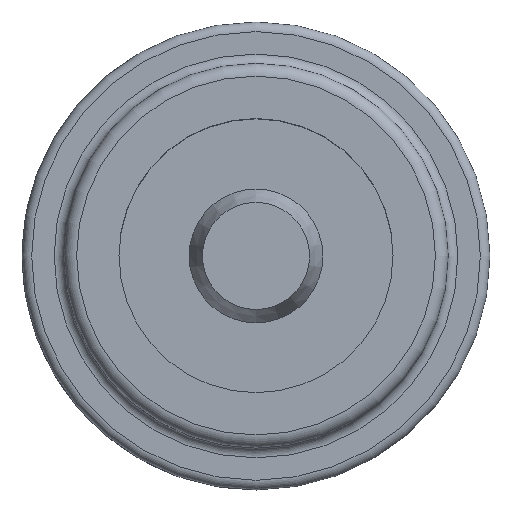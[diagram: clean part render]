
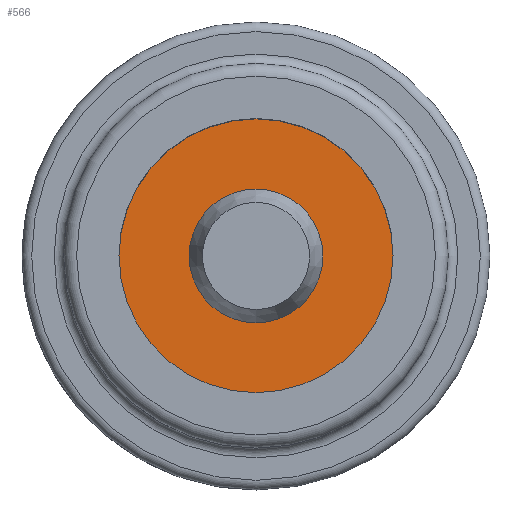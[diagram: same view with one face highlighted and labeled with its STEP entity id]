
A CAD part, top view. The second image highlights one B-rep face of the part: STEP entity #566.
In plain terms, the highlighted planar face has unit normal (0, 0, 1).
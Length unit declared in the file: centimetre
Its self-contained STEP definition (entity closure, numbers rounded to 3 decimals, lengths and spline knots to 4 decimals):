
#146=PLANE('',#639);
#195=VERTEX_POINT('',#1231);
#196=VERTEX_POINT('',#1235);
#237=CIRCLE('',#635,1.5875);
#238=CIRCLE('',#638,3.2512);
#297=EDGE_CURVE('',#195,#195,#237,.T.);
#298=EDGE_CURVE('',#196,#196,#238,.T.);
#413=ORIENTED_EDGE('',*,*,#297,.T.);
#414=ORIENTED_EDGE('',*,*,#298,.T.);
#469=EDGE_LOOP('',(#413));
#470=EDGE_LOOP('',(#414));
#525=FACE_BOUND('',#469,.T.);
#526=FACE_BOUND('',#470,.T.);
#566=ADVANCED_FACE('',(#525,#526),#146,.T.);
#635=AXIS2_PLACEMENT_3D('',#1230,#769,#770);
#638=AXIS2_PLACEMENT_3D('',#1234,#774,#775);
#639=AXIS2_PLACEMENT_3D('',#1236,#776,$);
#769=DIRECTION('',(0.,0.,-1.));
#770=DIRECTION('',(0.,1.588,0.));
#774=DIRECTION('',(0.,0.,1.));
#775=DIRECTION('',(3.251,0.,0.));
#776=DIRECTION('',(0.,0.,1.));
#1230=CARTESIAN_POINT('',(0.,0.,-5.334));
#1231=CARTESIAN_POINT('',(0.,1.5875,-5.334));
#1234=CARTESIAN_POINT('',(0.,0.,-5.334));
#1235=CARTESIAN_POINT('',(3.2512,0.,-5.334));
#1236=CARTESIAN_POINT('',(0.,0.,-5.334));
